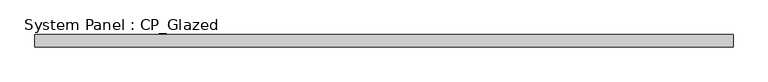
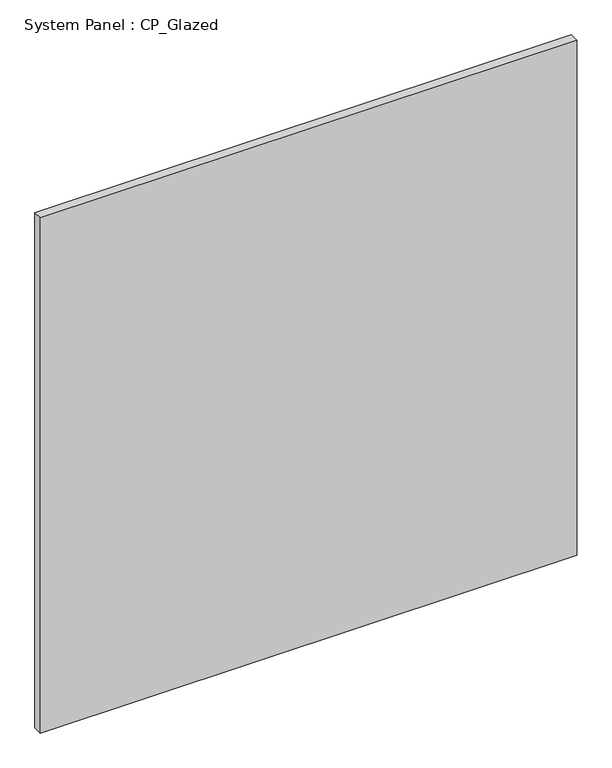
"""IFC4 building model written with IfcOpenShell, lengths in millimetres: plate geometry, System Panel : CP_Glazed."""

from ifc_helpers import new_model, si_unit, origin, origin_with_axes, place, context, project, spatial, polyline, outline, extrude, source, transform, mapped, element, save


def system_panel_cp_glazed_52a30bed(model_context):
    return source(origin(), model_context, "Body", "SweptSolid", [
        extrude(outline(polyline([(728.8892857, 19.05), (-728.8892857, 19.05), (-728.8892857, 44.45), (728.8892857, 44.45), (728.8892857, 19.05)])), origin_with_axes(), (0.0, 0.0, 1.0), 1479.55),
    ])


if __name__ == "__main__":
    model = new_model("IFC4")
    model_context = context("Model", 3, world=origin())
    ifc_project = project(units=[si_unit("LENGTHUNIT", "METRE", prefix="MILLI")], contexts=[model_context])
    site = spatial("IfcSite", under=ifc_project)
    building = spatial("IfcBuilding", under=site)
    placement = place(None, origin())
    system_panel_cp_glazed_shape = system_panel_cp_glazed_52a30bed(model_context)
    element("IfcPlate", 1, ObjectType="System Panel : CP_Glazed", at=placement, inside=building, context=model_context, shape_type="MappedRepresentation", body=[
        mapped(system_panel_cp_glazed_shape, transform((0.0, 0.0, 0.0), x_axis=(1.0, 0.0, 0.0), y_axis=(0.0, 1.0, 0.0), z_axis=(0.0, 0.0, 1.0))),
    ])
    save(model, "model.ifc")
